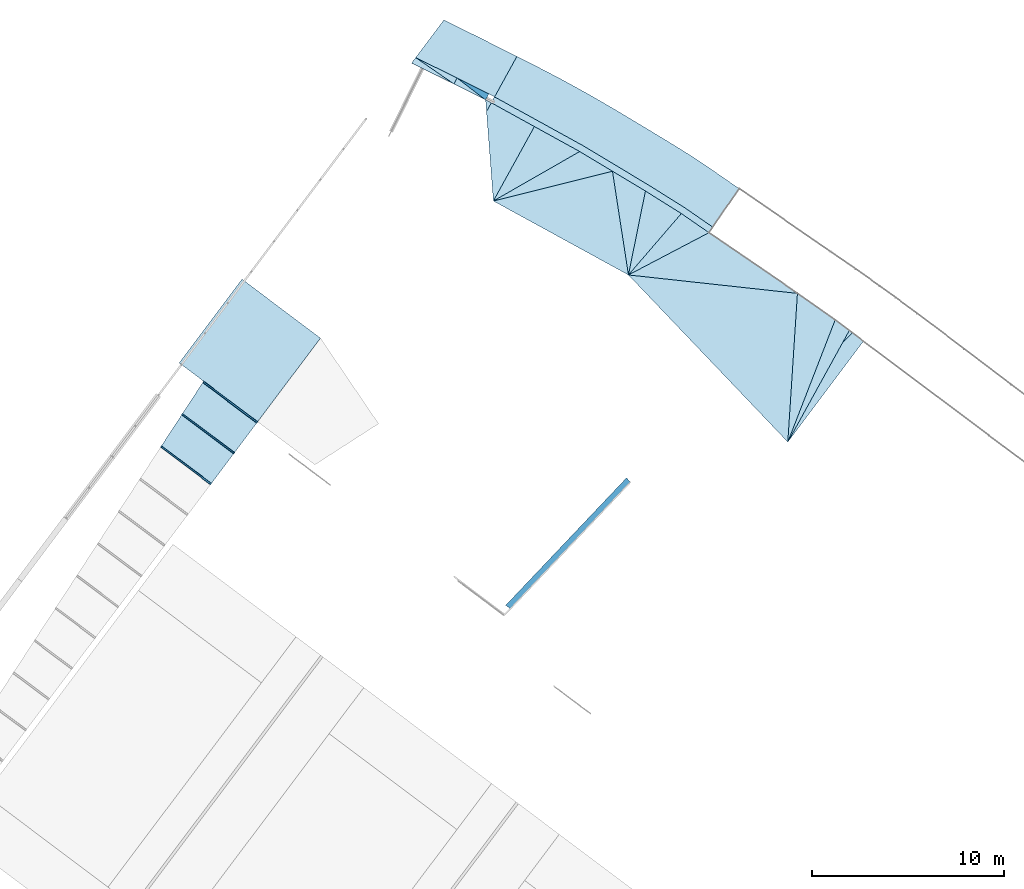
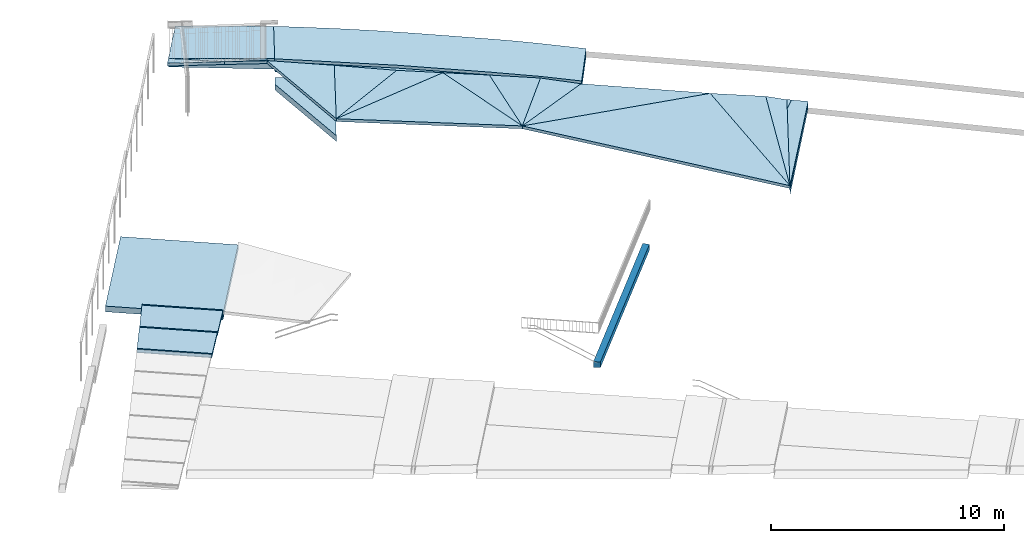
# One storey, part 23 of 33: 29 slabs, 2 elements without a shape of their own.
"""IFC2X3 building model written with IfcOpenShell, lengths in metres."""

from ifc_helpers import new_model, entity, si_unit, converted_unit, derived_unit, direction, frame, frame_2d, origin, place, context, subcontext, project, spatial, polyline, rectangle, outline, extrude, clip, halfspace, material, layer, layer_set, layer_usage, type_object, element, aggregate, save


model = new_model("IFC2X3")

# Units and contexts
model_context = context("Model", 3, precision=1e-05, world=origin(), true_north=direction((6.123031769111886e-17, 1.0)))
body_context = subcontext(model_context, "Body", "Model", "MODEL_VIEW")
ifc_project = project(units=[si_unit("LENGTHUNIT", "METRE"), si_unit("AREAUNIT", "SQUARE_METRE"), si_unit("VOLUMEUNIT", "CUBIC_METRE"), converted_unit("PLANEANGLEUNIT", "DEGREE", entity("IfcRatioMeasure", 0.017453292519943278), si_unit("PLANEANGLEUNIT", "RADIAN"), dimensions=[0, 0, 0, 0, 0, 0, 0]), si_unit("MASSUNIT", "GRAM", prefix="KILO"), derived_unit("MASSDENSITYUNIT", [(si_unit("MASSUNIT", "GRAM", prefix="KILO"), 1), (si_unit("LENGTHUNIT", "METRE"), -3)]), derived_unit("IONCONCENTRATIONUNIT", [(si_unit("MASSUNIT", "GRAM", prefix="KILO"), 1), (si_unit("LENGTHUNIT", "METRE"), -3)]), derived_unit("MOMENTOFINERTIAUNIT", [(si_unit("LENGTHUNIT", "METRE"), 4)]), si_unit("TIMEUNIT", "SECOND"), si_unit("FREQUENCYUNIT", "HERTZ"), si_unit("THERMODYNAMICTEMPERATUREUNIT", "DEGREE_CELSIUS"), derived_unit("THERMALTRANSMITTANCEUNIT", [(si_unit("MASSUNIT", "GRAM", prefix="KILO"), 1), (si_unit("THERMODYNAMICTEMPERATUREUNIT", "KELVIN"), -1), (si_unit("TIMEUNIT", "SECOND"), -3)]), derived_unit("THERMALCONDUCTANCEUNIT", [(si_unit("MASSUNIT", "GRAM", prefix="KILO"), 1), (si_unit("THERMODYNAMICTEMPERATUREUNIT", "KELVIN"), -1), (si_unit("TIMEUNIT", "SECOND"), -3), (si_unit("LENGTHUNIT", "METRE"), 1)]), derived_unit("VOLUMETRICFLOWRATEUNIT", [(si_unit("LENGTHUNIT", "METRE"), 3), (si_unit("TIMEUNIT", "SECOND"), -1)]), derived_unit("MASSFLOWRATEUNIT", [(si_unit("MASSUNIT", "GRAM", prefix="KILO"), 1), (si_unit("TIMEUNIT", "SECOND"), -1)]), derived_unit("ROTATIONALFREQUENCYUNIT", [(si_unit("TIMEUNIT", "SECOND"), -1)]), si_unit("ELECTRICCURRENTUNIT", "AMPERE"), si_unit("ELECTRICVOLTAGEUNIT", "VOLT"), si_unit("POWERUNIT", "WATT"), si_unit("FORCEUNIT", "NEWTON", prefix="KILO"), si_unit("ILLUMINANCEUNIT", "LUX"), si_unit("LUMINOUSFLUXUNIT", "LUMEN"), si_unit("LUMINOUSINTENSITYUNIT", "CANDELA"), derived_unit("USERDEFINED", [(si_unit("MASSUNIT", "GRAM", prefix="KILO"), -1), (si_unit("LENGTHUNIT", "METRE"), -2), (si_unit("TIMEUNIT", "SECOND"), 3), (si_unit("LUMINOUSFLUXUNIT", "LUMEN"), 1)]), derived_unit("USERDEFINED", [(si_unit("MASSUNIT", "GRAM", prefix="KILO"), 1), (si_unit("TIMEUNIT", "SECOND"), -3), (si_unit("LENGTHUNIT", "METRE"), 3), (si_unit("ELECTRICCURRENTUNIT", "AMPERE"), -2)]), derived_unit("SOUNDPOWERUNIT", [(si_unit("MASSUNIT", "GRAM", prefix="KILO"), 1), (si_unit("TIMEUNIT", "SECOND"), -3), (si_unit("LENGTHUNIT", "METRE"), 2)]), derived_unit("SOUNDPRESSUREUNIT", [(si_unit("MASSUNIT", "GRAM", prefix="KILO"), 1), (si_unit("LENGTHUNIT", "METRE"), -1), (si_unit("TIMEUNIT", "SECOND"), -2)]), derived_unit("LINEARVELOCITYUNIT", [(si_unit("LENGTHUNIT", "METRE"), 1), (si_unit("TIMEUNIT", "SECOND"), -1)]), si_unit("PRESSUREUNIT", "PASCAL"), derived_unit("USERDEFINED", [(si_unit("MASSUNIT", "GRAM", prefix="KILO"), 1), (si_unit("LENGTHUNIT", "METRE"), -2), (si_unit("TIMEUNIT", "SECOND"), -2)]), derived_unit("LINEARFORCEUNIT", [(si_unit("MASSUNIT", "GRAM", prefix="KILO"), 1), (si_unit("TIMEUNIT", "SECOND"), -2)]), derived_unit("PLANARFORCEUNIT", [(si_unit("MASSUNIT", "GRAM", prefix="KILO"), 1), (si_unit("LENGTHUNIT", "METRE"), -1), (si_unit("TIMEUNIT", "SECOND"), -2)]), derived_unit("SPECIFICHEATCAPACITYUNIT", [(si_unit("THERMODYNAMICTEMPERATUREUNIT", "KELVIN"), -1), (si_unit("LENGTHUNIT", "METRE"), 2), (si_unit("TIMEUNIT", "SECOND"), -2)]), derived_unit("HEATINGVALUEUNIT", [(si_unit("LENGTHUNIT", "METRE"), 2), (si_unit("TIMEUNIT", "SECOND"), -2)]), derived_unit("VAPORPERMEABILITYUNIT", [(si_unit("LENGTHUNIT", "METRE"), -1), (si_unit("TIMEUNIT", "SECOND"), 1)]), derived_unit("DYNAMICVISCOSITYUNIT", [(si_unit("MASSUNIT", "GRAM", prefix="KILO"), 1), (si_unit("TIMEUNIT", "SECOND"), -1), (si_unit("LENGTHUNIT", "METRE"), -1)]), derived_unit("THERMALEXPANSIONCOEFFICIENTUNIT", [(si_unit("THERMODYNAMICTEMPERATUREUNIT", "KELVIN"), -1)]), derived_unit("MODULUSOFELASTICITYUNIT", [(si_unit("MASSUNIT", "GRAM", prefix="KILO"), 1), (si_unit("LENGTHUNIT", "METRE"), -1), (si_unit("TIMEUNIT", "SECOND"), -2)]), derived_unit("ISOTHERMALMOISTURECAPACITYUNIT", [(si_unit("LENGTHUNIT", "METRE"), 3), (si_unit("MASSUNIT", "GRAM", prefix="KILO"), -1)]), derived_unit("MOISTUREDIFFUSIVITYUNIT", [(si_unit("TIMEUNIT", "SECOND"), -1), (si_unit("LENGTHUNIT", "METRE"), 2)])], contexts=[model_context])

# Site, building, storey
site_placement = place(None, origin())
site = spatial("IfcSite", under=ifc_project, at=site_placement, Name="Superficie", CompositionType="ELEMENT")
building_placement = place(site_placement, frame((0.0, 0.0, 235.0), z_axis=(0.0, 0.0, 1.0), x_axis=(-0.7996477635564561, 0.6004693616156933, 0.0)))
building = spatial("IfcBuilding", under=site, at=building_placement, CompositionType="ELEMENT")
storey_placement = place(building_placement, origin())
storey = spatial("IfcBuildingStorey", under=building, at=storey_placement, Name="P0- Escola", CompositionType="ELEMENT", Elevation=0.0)

# Slabs
ifc_material_1 = material(Name="_Topografia- Plataformes")
ifc_layer_1 = layer(ifc_material_1, 0.29999999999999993)
ifc_layer_set_1 = layer_set([ifc_layer_1], Name="Plataforma:300 mm")
ifc_layer_usage_1 = layer_usage(ifc_layer_set_1, "AXIS3", "POSITIVE", 0.0)
slab_type_1 = type_object("IfcSlabType", Name="Plataforma:300 mm", PredefinedType="FLOOR", material=ifc_layer_set_1)
slab_1_placement = place(storey_placement, frame((52.08748387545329, -66.38449841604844, -5.957070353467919)))
element("IfcSlab", 1, at=slab_1_placement, inside=storey, type_object=slab_type_1, material=ifc_layer_usage_1, Name="Plataforma:300 mm", ObjectType="Plataforma:300 mm", PredefinedType="FLOOR", context=body_context, shape_type="SweptSolid", body=[
    extrude(outline(polyline([(0.0, 3.2718510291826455), (0.0, -3.2718510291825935), (0.9313138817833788, -3.2718510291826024), (0.0, 3.2718510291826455)])), frame((0.0, 3.2718510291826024, 0.36127035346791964), z_axis=(-0.12878853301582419, 0.0, 0.9916720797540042), x_axis=(0.9916720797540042, 0.0, 0.12878853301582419)), (-0.12878853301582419, 0.0, -0.9916720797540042), 0.3025193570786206),
])
slab_2_placement = place(storey_placement, frame((74.74514768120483, -49.58034399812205, -3.56914060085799)))
element("IfcSlab", 2, at=slab_2_placement, inside=storey, type_object=slab_type_1, material=ifc_layer_usage_1, Name="Plataforma:300 mm", ObjectType="Plataforma:300 mm", PredefinedType="FLOOR", context=body_context, shape_type="SweptSolid", body=[
    extrude(rectangle(XDim=5.44185192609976, YDim=5.099774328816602, at=frame_2d((0.6999920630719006, -2.72092596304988), x_axis=(0.0, 1.0))), frame((1.8498951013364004, 5.440152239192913, 0.4360937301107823), z_axis=(0.0, -0.02499149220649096, 0.9996876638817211), x_axis=(1.0, 0.0, 0.0)), (0.0, -0.02499149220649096, -0.9996876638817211), 0.30009373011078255),
])
slab_3_placement = place(storey_placement, origin())
element("IfcSlab", 3, at=slab_3_placement, inside=storey, type_object=slab_type_1, material=ifc_layer_usage_1, Name="Plataforma:300 mm", ObjectType="Plataforma:300 mm", PredefinedType="FLOOR", context=body_context, shape_type="SweptSolid", body=[
    extrude(outline(polyline([(-0.6703038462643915, -4.516815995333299), (-0.36832750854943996, -4.516815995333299), (0.6671392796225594, 4.489291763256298), (0.37149207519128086, 4.5443402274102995), (-0.6703038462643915, -4.516815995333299)])), frame((58.044950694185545, -48.777078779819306, -4.6499999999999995), z_axis=(0.0, 0.0, 1.0), x_axis=(-1.0, 0.0, 0.0)), (0.0, 0.0, 1.0), 0.2999999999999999),
])
slab_4_placement = place(storey_placement, frame((75.03822631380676, -67.41095313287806, -4.816696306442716)))
element("IfcSlab", 4, at=slab_4_placement, inside=storey, type_object=slab_type_1, material=ifc_layer_usage_1, Name="Plataforma:300 mm", ObjectType="Plataforma:300 mm", PredefinedType="FLOOR", context=body_context, shape_type="SweptSolid", body=[
    extrude(outline(polyline([(4.975213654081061e-08, -2.4421005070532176), (0.0, 0.0), (-1.9283567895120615, 0.3618861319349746), (-4.181294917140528, 0.7651706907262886), (-4.517756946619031, -1.6129324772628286), (-4.504864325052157, -1.6152428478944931), (-2.3632354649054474, -1.998602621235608), (4.975213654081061e-08, -2.4421005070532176)])), frame((4.506694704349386, 0.7651706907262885, 0.6166963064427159), z_axis=(0.06993734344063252, 0.0, -0.9975513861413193), x_axis=(0.9975513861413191, 0.0, 0.0699373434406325)), (-0.0699373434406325, 0.0, 0.9975513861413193), 0.3007363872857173),
])
slab_5_placement = place(storey_placement, frame((61.89528590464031, -68.85457826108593, -5.752737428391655)))
element("IfcSlab", 5, at=slab_5_placement, inside=storey, type_object=slab_type_1, material=ifc_layer_usage_1, Name="Plataforma:300 mm", ObjectType="Plataforma:300 mm", PredefinedType="FLOOR", context=body_context, shape_type="SweptSolid", body=[
    extrude(outline(polyline([(-11.221986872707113, 2.1279757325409), (-13.298519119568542, 2.208795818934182), (-13.411891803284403, -0.564828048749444), (-11.660772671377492, -0.6330930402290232), (-9.46047272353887, -0.8173010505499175), (-7.466589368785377, -1.0226639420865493), (-5.485474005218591, -1.2267117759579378), (-0.27741188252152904, -1.9594977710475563), (-0.2154468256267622, -1.615242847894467), (-0.22834761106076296, -1.6129324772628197), (0.10832747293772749, 0.7651706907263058), (-1.0072501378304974, 0.9647369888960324), (-2.5682796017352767, 1.2198542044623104), (-4.134480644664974, 1.440222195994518), (-5.8069179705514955, 1.6370701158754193), (-7.476485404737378, 1.8090296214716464), (-9.34133626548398, 1.9932965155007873), (-10.28018211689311, 2.071896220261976), (-11.221986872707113, 2.1279757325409)])), frame((13.370584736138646, 2.208795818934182, 1.3527374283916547), z_axis=(0.07842373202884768, 0.0, -0.9969201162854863), x_axis=(0.9969201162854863, 0.0, 0.07842373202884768)), (-0.07842373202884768, 0.0, 0.9969201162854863), 0.3009268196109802),
])
slab_6_placement = place(storey_placement, origin())
element("IfcSlab", 6, at=slab_6_placement, inside=storey, type_object=slab_type_1, material=ifc_layer_usage_1, Name="Plataforma:300 mm", ObjectType="Plataforma:300 mm", PredefinedType="FLOOR", context=body_context, shape_type="SweptSolid", body=[
    extrude(outline(polyline([(-1.2777070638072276, -1.2347921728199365), (1.2777070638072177, -1.2347921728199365), (1.2777070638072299, -0.7130086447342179), (-1.2777070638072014, 3.182592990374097), (-1.2777070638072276, -1.2347921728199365)])), frame((73.55158026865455, -63.64217203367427, -5.299999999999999), z_axis=(0.0, 0.0, 1.0), x_axis=(0.9901865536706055, 0.1397518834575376, 0.0)), (0.0, 0.0, 1.0), 0.30000000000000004),
])
ifc_material_2 = material(Name="_Formigó- Solera- T1- STR")
ifc_layer_2 = layer(ifc_material_2, 0.14999999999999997)
ifc_layer_set_2 = layer_set([ifc_layer_2], Name="Suelo:STR- L- Formigó- Solera- T1- 15 cm")
ifc_layer_usage_2 = layer_usage(ifc_layer_set_2, "AXIS3", "POSITIVE", 0.0)
slab_type_2 = type_object("IfcSlabType", Name="Suelo:STR- L- Formigó- Solera- T1- 15 cm", PredefinedType="FLOOR", material=ifc_layer_set_2)
slab_7_placement = place(storey_placement, origin())
element("IfcSlab", 7, at=slab_7_placement, inside=storey, type_object=slab_type_2, material=ifc_layer_usage_2, Name="Suelo:STR- L- Formigó- Solera- T1- 15 cm", ObjectType="Suelo:STR- L- Formigó- Solera- T1- 15 cm", PredefinedType="FLOOR", context=body_context, shape_type="SweptSolid", body=[
    clip(clip(extrude(outline(polyline([(-0.04012779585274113, -1.7545660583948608), (0.0401277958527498, -1.7545660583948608), (0.0401277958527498, 1.7519318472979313), (-0.04012779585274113, 1.7572002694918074), (-0.04012779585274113, -1.7545660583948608)])), frame((76.4997137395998, -44.100191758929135, -2.8968), z_axis=(0.0, 0.07974522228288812, -0.9968152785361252), x_axis=(0.0, 0.9968152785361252, 0.07974522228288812)), (-0.07974522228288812, 0.0, 0.9968152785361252), 0.15096000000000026), halfspace(frame((74.74514768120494, -44.14019175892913, -3.0504792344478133), z_axis=(0.0, 0.07974522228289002, -0.9968152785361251), x_axis=(0.0, -0.9968152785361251, -0.07974522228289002)), False)), halfspace(frame((74.74514768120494, -44.14019175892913, -2.8999999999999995), z_axis=(0.0, -0.07974522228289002, 0.9968152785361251), x_axis=(0.0, 0.9968152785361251, 0.07974522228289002)), False)),
])
slab_8_placement = place(storey_placement, origin())
element("IfcSlab", 8, at=slab_8_placement, inside=storey, type_object=slab_type_2, material=ifc_layer_usage_2, Name="Suelo:STR- L- Formigó- Solera- T1- 15 cm", ObjectType="Suelo:STR- L- Formigó- Solera- T1- 15 cm", PredefinedType="FLOOR", context=body_context, shape_type="SweptSolid", body=[
    clip(clip(extrude(outline(polyline([(-0.04012779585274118, -1.688710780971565), (0.04012779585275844, -1.688710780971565), (0.04012779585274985, 1.686076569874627), (-0.04012779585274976, 1.691344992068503), (-0.04012779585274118, -1.688710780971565)])), frame((76.4338584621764, -42.10019175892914, -2.653799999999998), z_axis=(0.0, 0.07974522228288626, -0.9968152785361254), x_axis=(0.0, 0.9968152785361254, 0.07974522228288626)), (-0.07974522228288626, 0.0, 0.9968152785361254), 0.1509600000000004), halfspace(frame((74.74514768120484, -42.060191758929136, -2.8010792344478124), z_axis=(0.0, 0.07974522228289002, -0.9968152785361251), x_axis=(0.0, 0.9968152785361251, 0.07974522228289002)), False)), halfspace(frame((74.74514768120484, -42.060191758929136, -2.650599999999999), z_axis=(0.0, -0.07974522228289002, 0.9968152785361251), x_axis=(0.0, -0.9968152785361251, -0.07974522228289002)), False)),
])
slab_9_placement = place(storey_placement, origin())
element("IfcSlab", 9, at=slab_9_placement, inside=storey, type_object=slab_type_2, material=ifc_layer_usage_2, Name="Suelo:STR- L- Formigó- Solera- T1- 15 cm", ObjectType="Suelo:STR- L- Formigó- Solera- T1- 15 cm", PredefinedType="FLOOR", context=body_context, shape_type="SweptSolid", body=[
    clip(clip(extrude(outline(polyline([(-0.04012779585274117, -1.6228555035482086), (0.04012779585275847, -1.6228555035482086), (0.04012779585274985, 1.6202212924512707), (-0.04012779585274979, 1.6254897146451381), (-0.04012779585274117, -1.6228555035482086)])), frame((76.36800318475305, -40.10019175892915, -2.4108), z_axis=(0.0, 0.0797452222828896, -0.9968152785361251), x_axis=(0.0, 0.9968152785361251, 0.0797452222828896)), (-0.0797452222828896, 0.0, 0.9968152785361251), 0.15096000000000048), halfspace(frame((74.74514768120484, -40.060191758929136, -2.558079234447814), z_axis=(0.0, 0.07974522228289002, -0.9968152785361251), x_axis=(0.0, 0.9968152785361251, 0.07974522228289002)), False)), halfspace(frame((74.74514768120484, -40.060191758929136, -2.4076), z_axis=(0.0, -0.07974522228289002, 0.9968152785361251), x_axis=(0.0, -0.9968152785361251, -0.07974522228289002)), False)),
])
slab_10_placement = place(storey_placement, origin())
element("IfcSlab", 10, at=slab_10_placement, inside=storey, type_object=slab_type_2, material=ifc_layer_usage_2, Name="Suelo:STR- L- Formigó- Solera- T1- 15 cm", ObjectType="Suelo:STR- L- Formigó- Solera- T1- 15 cm", PredefinedType="FLOOR", context=body_context, shape_type="SweptSolid", body=[
    clip(clip(extrude(outline(polyline([(-1.489742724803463, -7.061052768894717), (0.9120742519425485, -7.061052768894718), (0.9532939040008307, -5.928515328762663), (0.9870747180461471, -4.347137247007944), (0.9857244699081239, -2.7655096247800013), (0.9461946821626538, -1.0819915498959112), (0.8824244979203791, 0.5951962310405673), (0.8034663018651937, 2.4674645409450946), (0.7496871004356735, 3.4080586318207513), (0.6731952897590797, 4.348425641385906), (0.4621391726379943, 6.415784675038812), (-1.9517307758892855, 6.174112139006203), (-1.7731203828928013, 4.42348002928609), (-1.6464422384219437, 2.207889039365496), (-1.494238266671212, -1.795151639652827), (-1.489742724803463, -7.061052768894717)])), frame((68.27660356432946, -67.49766826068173, -4.799817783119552), z_axis=(0.07842373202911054, 0.0, -0.9969201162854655), x_axis=(0.13974343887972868, -0.9901267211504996, 0.010993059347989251)), (-0.010993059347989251, 0.0776494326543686, 0.9969201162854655), 0.15092825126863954), halfspace(frame((75.26587064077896, -66.64578244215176, -4.400463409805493), z_axis=(0.07842373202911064, 0.0, -0.9969201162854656), x_axis=(-0.9969201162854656, 0.0, -0.07842373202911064)), False)), halfspace(frame((75.26587064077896, -66.64578244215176, -4.25), z_axis=(-0.07842373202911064, 0.0, 0.9969201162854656), x_axis=(0.9969201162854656, 0.0, 0.07842373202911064)), False)),
])
slab_11_placement = place(storey_placement, origin())
element("IfcSlab", 11, at=slab_11_placement, inside=storey, type_object=slab_type_2, material=ifc_layer_usage_2, Name="Suelo:STR- L- Formigó- Solera- T1- 15 cm", ObjectType="Suelo:STR- L- Formigó- Solera- T1- 15 cm", PredefinedType="FLOOR", context=body_context, shape_type="SweptSolid", body=[
    clip(clip(extrude(outline(polyline([(-1.6210036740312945, -2.162163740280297), (0.8210968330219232, -2.162163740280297), (1.182983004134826, -0.2364287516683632), (1.5862676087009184, 2.0134462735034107), (-0.7918380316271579, 2.3494512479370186), (-1.177505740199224, 0.19785871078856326), (-1.6210036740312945, -2.162163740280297)])), frame((77.38511512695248, -65.82468556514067, -4.150947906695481), z_axis=(0.0466883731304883, 0.0, -0.9989095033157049), x_axis=(-2.032279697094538e-08, -1.0, 0.0)), (0.0, 0.046688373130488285, 0.9989095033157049), 0.15032768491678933), halfspace(frame((79.54492101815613, -66.64578244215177, -4.200163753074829), z_axis=(0.04668837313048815, 0.0, -0.9989095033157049), x_axis=(-0.9989095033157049, 0.0, -0.04668837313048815)), False)), halfspace(frame((79.54492101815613, -66.64578244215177, -4.05), z_axis=(-0.04668837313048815, 0.0, 0.9989095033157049), x_axis=(0.9989095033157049, 0.0, 0.04668837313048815)), False)),
])
ifc_material_3 = material(Name="_Saulo T1- PAV")
ifc_layer_3 = layer(ifc_material_3, 0.14999999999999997)
ifc_layer_set_3 = layer_set([ifc_layer_3], Name="Suelo:PAV- Saulo- 15 cm- T1")
ifc_layer_usage_3 = layer_usage(ifc_layer_set_3, "AXIS3", "POSITIVE", 0.0)
slab_type_3 = type_object("IfcSlabType", Name="Suelo:PAV- Saulo- 15 cm- T1", PredefinedType="FLOOR", material=ifc_layer_set_3)
slab_12_placement = place(storey_placement, origin())
element("IfcSlab", 12, at=slab_12_placement, inside=storey, type_object=slab_type_3, material=ifc_layer_usage_3, Name="Suelo:PAV- Saulo- 15 cm- T1", ObjectType="Suelo:PAV- Saulo- 15 cm- T1", PredefinedType="FLOOR", context=body_context, shape_type="SweptSolid", body=[
    clip(clip(extrude(outline(polyline([(-0.9630671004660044, -1.721638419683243), (0.963067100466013, -1.721638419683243), (0.9630671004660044, 1.658417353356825), (-0.9630671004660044, 1.784859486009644), (-0.9630671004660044, -1.721638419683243)])), frame((76.46678610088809, -43.10019175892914, -2.8167999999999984), z_axis=(0.0, 0.0797452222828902, -0.9968152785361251), x_axis=(0.0, 0.9968152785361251, 0.0797452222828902)), (-0.0797452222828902, 0.0, 0.9968152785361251), 0.15096000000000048), halfspace(frame((78.12520345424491, -42.14019175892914, -2.8904792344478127), z_axis=(0.0, 0.07974522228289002, -0.9968152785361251), x_axis=(0.0, 0.9968152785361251, 0.07974522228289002)), False)), halfspace(frame((78.12520345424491, -42.14019175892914, -2.7399999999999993), z_axis=(0.0, -0.07974522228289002, 0.9968152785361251), x_axis=(0.0, -0.9968152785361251, -0.07974522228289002)), False)),
])
slab_13_placement = place(storey_placement, origin())
element("IfcSlab", 13, at=slab_13_placement, inside=storey, type_object=slab_type_3, material=ifc_layer_usage_3, Name="Suelo:PAV- Saulo- 15 cm- T1", ObjectType="Suelo:PAV- Saulo- 15 cm- T1", PredefinedType="FLOOR", context=body_context, shape_type="SweptSolid", body=[
    clip(clip(extrude(outline(polyline([(-0.9630671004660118, -1.6557831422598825), (0.963067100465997, -1.6557831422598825), (0.9630671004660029, 1.5925620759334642), (-0.9630671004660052, 1.7190042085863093), (-0.9630671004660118, -1.6557831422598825)])), frame((76.40093082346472, -41.100191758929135, -2.573799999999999), z_axis=(0.0, 0.07974522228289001, -0.9968152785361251), x_axis=(0.0, 0.9968152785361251, 0.07974522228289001)), (-0.07974522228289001, 0.0, 0.9968152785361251), 0.15096000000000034), halfspace(frame((74.74514768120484, -40.140191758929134, -2.6474792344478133), z_axis=(0.0, 0.07974522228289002, -0.9968152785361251), x_axis=(0.0, 0.9968152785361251, 0.07974522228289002)), False)), halfspace(frame((74.74514768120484, -40.140191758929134, -2.497), z_axis=(0.0, -0.07974522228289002, 0.9968152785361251), x_axis=(0.0, -0.9968152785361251, -0.07974522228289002)), False)),
])

slab_14_placement = place(storey_placement, frame((75.31819106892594, -64.97382645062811, -4.386012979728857)))
slab_14 = element("IfcSlab", 14, at=slab_14_placement, inside=storey, Name="Suelo:PAV- Saulo- 15 cm- T1", ObjectType="Suelo:PAV- Saulo- 15 cm- T1", PredefinedType="NOTDEFINED")
slab_15_placement = place(slab_14_placement, origin())
slab_15 = element("IfcSlab", 15, at=slab_15_placement, type_object=slab_type_3, material=ifc_layer_set_3, Name="Suelo:PAV- Saulo- 15 cm- T1", ObjectType="Suelo:PAV- Saulo- 15 cm- T1", PredefinedType="FLOOR", context=body_context, shape_type="SweptSolid", body=[
    extrude(outline(polyline([(1.178322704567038, 0.3995288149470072), (-1.2429745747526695, -0.05551465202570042), (1.1783226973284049, 0.043364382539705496), (1.178322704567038, 0.3995288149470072)])), frame((3.048548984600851, 0.7265676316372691, 0.3184714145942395), z_axis=(-0.015507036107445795, 0.011793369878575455, 0.9998102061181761), x_axis=(0.9998797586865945, 0.00018290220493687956, 0.015505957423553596)), (-0.015505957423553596, 0.011794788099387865, -0.9998102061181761), 0.15000000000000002),
])
slab_16_placement = place(slab_14_placement, origin())
slab_16 = element("IfcSlab", 16, at=slab_16_placement, type_object=slab_type_3, material=ifc_layer_set_3, Name="Suelo:PAV- Saulo- 15 cm- T1", ObjectType="Suelo:PAV- Saulo- 15 cm- T1", PredefinedType="FLOOR", context=body_context, shape_type="SweptSolid", body=[
    extrude(outline(polyline([(-1.2132433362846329, -0.03732141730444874), (-1.1496849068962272, -0.3893287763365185), (1.2078070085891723, 0.06742957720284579), (-1.2132433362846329, -0.03732141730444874)])), frame((3.01894504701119, 0.7057675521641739, 0.3148853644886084), z_axis=(-0.006043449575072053, -0.21073759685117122, 0.9775239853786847), x_axis=(0.99998173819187, -0.0012736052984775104, 0.0059077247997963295)), (-0.0059077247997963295, -0.21074144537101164, -0.9775239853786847), 0.15000000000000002),
])
slab_17_placement = place(slab_14_placement, origin())
slab_17 = element("IfcSlab", 17, at=slab_17_placement, type_object=slab_type_3, material=ifc_layer_set_3, Name="Suelo:PAV- Saulo- 15 cm- T1", ObjectType="Suelo:PAV- Saulo- 15 cm- T1", PredefinedType="FLOOR", context=body_context, shape_type="SweptSolid", body=[
    extrude(outline(polyline([(0.8713329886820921, 0.33700751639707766), (-0.9349084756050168, 0.01499676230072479), (0.9349084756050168, -0.014996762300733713), (0.8713329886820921, 0.33700751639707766)])), frame((0.9346405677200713, 0.33672561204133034, 0.25102930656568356), z_axis=(0.02393823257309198, -0.2053864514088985, 0.9783881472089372), x_axis=(0.9997134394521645, 0.004917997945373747, -0.023427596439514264)), (0.023427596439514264, -0.20544532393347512, -0.9783881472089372), 0.15000000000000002),
])
slab_18_placement = place(slab_14_placement, origin())
slab_18 = element("IfcSlab", 18, at=slab_18_placement, type_object=slab_type_3, material=ifc_layer_set_3, Name="Suelo:PAV- Saulo- 15 cm- T1", ObjectType="Suelo:PAV- Saulo- 15 cm- T1", PredefinedType="FLOOR", context=body_context, shape_type="SweptSolid", body=[
    extrude(outline(polyline([(0.9383881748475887, 0.16600790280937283), (-0.9313247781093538, 0.2019038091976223), (-0.8823665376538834, -0.16708344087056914), (0.9383881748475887, 0.16600790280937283)])), frame((0.9311096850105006, 0.16362530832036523, 0.18877139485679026), z_axis=(0.02149079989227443, -0.33874934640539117, 0.9406311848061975), x_axis=(0.999769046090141, 0.00728167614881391, -0.020219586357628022)), (0.020219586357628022, -0.3388275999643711, -0.9406311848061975), 0.15000000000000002),
])
aggregate(slab_14, [slab_15, slab_16, slab_17, slab_18])

slab_19_placement = place(storey_placement, frame((52.087483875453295, -66.38449841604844, -5.6599999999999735)))
slab_19 = element("IfcSlab", 19, at=slab_19_placement, inside=storey, Name="Suelo:PAV- Saulo- 15 cm- T1", ObjectType="Suelo:PAV- Saulo- 15 cm- T1", PredefinedType="NOTDEFINED")
slab_20_placement = place(slab_19_placement, origin())
slab_20 = element("IfcSlab", 20, at=slab_20_placement, type_object=slab_type_3, material=ifc_layer_set_3, Name="Suelo:PAV- Saulo- 15 cm- T1", ObjectType="Suelo:PAV- Saulo- 15 cm- T1", PredefinedType="FLOOR", context=body_context, shape_type="SweptSolid", body=[
    extrude(outline(polyline([(3.643170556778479, 2.7428742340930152), (-4.286510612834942, 1.5562382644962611), (-0.38112433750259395, -2.2547258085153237), (3.643170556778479, 2.7428742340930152)])), frame((16.11545069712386, 3.003307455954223, 1.1006352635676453), z_axis=(-0.049502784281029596, -0.09827718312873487, 0.9939270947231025), x_axis=(0.9987739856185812, -0.00487096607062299, 0.04926255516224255)), (-0.04926255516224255, -0.09839782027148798, -0.9939270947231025), 0.15000000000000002),
])
slab_21_placement = place(slab_19_placement, origin())
slab_21 = element("IfcSlab", 21, at=slab_21_placement, type_object=slab_type_3, material=ifc_layer_set_3, Name="Suelo:PAV- Saulo- 15 cm- T1", ObjectType="Suelo:PAV- Saulo- 15 cm- T1", PredefinedType="FLOOR", context=body_context, shape_type="SweptSolid", body=[
    extrude(outline(polyline([(1.4635052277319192, 2.9402616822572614), (-2.558963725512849, -2.058808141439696), (-0.582422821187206, -1.8452644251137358), (1.4635052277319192, 2.9402616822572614)])), frame((18.29178020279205, 2.797741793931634, 1.1794311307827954), z_axis=(-0.03930234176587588, -0.1064990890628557, 0.9935357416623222), x_axis=(0.9992273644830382, -0.0041889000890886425, 0.039078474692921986)), (-0.039078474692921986, -0.10658143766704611, -0.9935357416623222), 0.15000000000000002),
])
slab_22_placement = place(slab_19_placement, origin())
slab_22 = element("IfcSlab", 22, at=slab_22_placement, type_object=slab_type_3, material=ifc_layer_set_3, Name="Suelo:PAV- Saulo- 15 cm- T1", ObjectType="Suelo:PAV- Saulo- 15 cm- T1", PredefinedType="FLOOR", context=body_context, shape_type="SweptSolid", body=[
    extrude(outline(polyline([(-0.02946596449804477, 2.845004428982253), (-2.0842154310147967, -1.936740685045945), (0.5910131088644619, -1.538190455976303), (-0.02946596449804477, 2.845004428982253)])), frame((19.783471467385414, 2.879079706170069, 1.3243787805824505), z_axis=(-0.10049565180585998, -0.07993509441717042, 0.9917212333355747), x_axis=(0.9949374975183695, -0.008074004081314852, 0.10017078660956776)), (-0.10017078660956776, -0.08034182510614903, -0.9917212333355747), 0.15000000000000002),
])
slab_23_placement = place(slab_19_placement, origin())
slab_23 = element("IfcSlab", 23, at=slab_23_placement, type_object=slab_type_3, material=ifc_layer_set_3, Name="Suelo:PAV- Saulo- 15 cm- T1", ObjectType="Suelo:PAV- Saulo- 15 cm- T1", PredefinedType="FLOOR", context=body_context, shape_type="SweptSolid", body=[
    extrude(outline(polyline([(-1.751616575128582, 1.9877813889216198), (-1.131803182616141, -2.395507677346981), (1.7489567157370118, -1.968970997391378), (-1.751616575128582, 1.9877813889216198)])), frame((21.49877540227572, 3.7212010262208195, 1.5493777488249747), z_axis=(-0.08928562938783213, -0.0784319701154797, 0.9929131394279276), x_axis=(0.9960060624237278, -0.007030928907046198, 0.08900836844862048)), (-0.08900836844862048, -0.07874647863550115, -0.9929131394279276), 0.15000000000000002),
])
slab_24_placement = place(slab_19_placement, origin())
slab_24 = element("IfcSlab", 24, at=slab_24_placement, type_object=slab_type_3, material=ifc_layer_set_3, Name="Suelo:PAV- Saulo- 15 cm- T1", ObjectType="Suelo:PAV- Saulo- 15 cm- T1", PredefinedType="FLOOR", context=body_context, shape_type="SweptSolid", body=[
    extrude(outline(polyline([(6.390707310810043, 1.849446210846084), (-5.475211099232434, 3.7793722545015), (-1.225849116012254, -2.6894818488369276), (6.390707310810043, 1.849446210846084)])), frame((5.460573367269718, 2.749062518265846, 0.48380910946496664), z_axis=(-0.0730736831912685, -0.04981794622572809, 0.9960815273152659), x_axis=(0.9973265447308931, -0.003650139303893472, 0.07298246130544)), (-0.07298246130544, -0.04995148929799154, -0.9960815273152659), 0.15000000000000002),
])
slab_25_placement = place(slab_19_placement, origin())
slab_25 = element("IfcSlab", 25, at=slab_25_placement, type_object=slab_type_3, material=ifc_layer_set_3, Name="Suelo:PAV- Saulo- 15 cm- T1", ObjectType="Suelo:PAV- Saulo- 15 cm- T1", PredefinedType="FLOOR", context=body_context, shape_type="SweptSolid", body=[
    extrude(outline(polyline([(3.1177127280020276, 3.418648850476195), (-4.482017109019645, -1.1483968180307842), (1.0903760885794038, -0.8898045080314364), (3.1177127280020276, 3.418648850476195)])), frame((8.717933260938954, 1.1908367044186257, 0.5346313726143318), z_axis=(-0.03050123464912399, -0.12091964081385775, 0.9921935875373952), x_axis=(0.9995347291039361, -0.0036899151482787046, 0.03027721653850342)), (-0.03027721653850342, -0.12097592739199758, -0.9921935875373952), 0.15000000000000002),
])
slab_26_placement = place(slab_19_placement, origin())
slab_26 = element("IfcSlab", 26, at=slab_26_placement, type_object=slab_type_3, material=ifc_layer_set_3, Name="Suelo:PAV- Saulo- 15 cm- T1", ObjectType="Suelo:PAV- Saulo- 15 cm- T1", PredefinedType="FLOOR", context=body_context, shape_type="SweptSolid", body=[
    extrude(outline(polyline([(0.318590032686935, 2.4835708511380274), (-1.720228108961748, -1.8194611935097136), (0.0362016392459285, -1.7347645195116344), (0.318590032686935, 2.4835708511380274)])), frame((11.517546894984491, 2.1008703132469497, 0.8006089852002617), z_axis=(-0.11023186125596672, -0.0828380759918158, 0.9904477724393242), x_axis=(0.9939058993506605, -0.009187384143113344, 0.10984832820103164)), (-0.10984832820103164, -0.08334599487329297, -0.9904477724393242), 0.15000000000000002),
])
slab_27_placement = place(slab_19_placement, origin())
slab_27 = element("IfcSlab", 27, at=slab_27_placement, type_object=slab_type_3, material=ifc_layer_set_3, Name="Suelo:PAV- Saulo- 15 cm- T1", ObjectType="Suelo:PAV- Saulo- 15 cm- T1", PredefinedType="FLOOR", context=body_context, shape_type="SweptSolid", body=[
    extrude(outline(polyline([(-0.9459004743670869, 2.1815482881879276), (-1.2267705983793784, -2.0368884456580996), (0.9683363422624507, -1.8445801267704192), (-0.9459004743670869, 2.1815482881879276)])), frame((12.779413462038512, 2.3966547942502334, 0.8860195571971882), z_axis=(-0.0379786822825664, -0.08811495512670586, 0.995386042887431), x_axis=(0.9992785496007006, -0.0033489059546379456, 0.037830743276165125)), (-0.037830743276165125, -0.08817857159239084, -0.995386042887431), 0.15000000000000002),
])
slab_28_placement = place(slab_19_placement, origin())
slab_28 = element("IfcSlab", 28, at=slab_28_placement, type_object=slab_type_3, material=ifc_layer_set_3, Name="Suelo:PAV- Saulo- 15 cm- T1", ObjectType="Suelo:PAV- Saulo- 15 cm- T1", PredefinedType="FLOOR", context=body_context, shape_type="SweptSolid", body=[
    extrude(outline(polyline([(-1.9519262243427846, 1.9062676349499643), (-0.03747455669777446, -2.119758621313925), (1.9519262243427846, -1.906267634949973), (-1.9519262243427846, 1.9062676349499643)])), frame((13.784494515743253, 2.6671264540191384, 0.951300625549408), z_axis=(-0.04082273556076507, -0.08945299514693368, 0.9951540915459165), x_axis=(0.9991664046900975, -0.0036547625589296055, 0.04065880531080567)), (-0.04065880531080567, -0.08952762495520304, -0.9951540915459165), 0.15000000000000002),
])
slab_29_placement = place(slab_19_placement, origin())
slab_29 = element("IfcSlab", 29, at=slab_29_placement, type_object=slab_type_3, material=ifc_layer_set_3, Name="Suelo:PAV- Saulo- 15 cm- T1", ObjectType="Suelo:PAV- Saulo- 15 cm- T1", PredefinedType="FLOOR", context=body_context, shape_type="SweptSolid", body=[
    extrude(outline(polyline([(-0.4618060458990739, 3.2724289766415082), (-0.4618060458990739, -3.2724289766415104), (0.46180604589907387, -3.2722410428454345), (-0.4618060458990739, 3.2724289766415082)])), frame((0.4617789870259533, 3.271757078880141, 0.21649823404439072), z_axis=(-0.010825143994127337, -0.0187922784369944, 0.9997648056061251), x_axis=(0.999941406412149, -0.00020344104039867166, 0.010823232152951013)), (-0.010823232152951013, -0.01879337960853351, -0.9997648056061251), 0.15000000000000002),
])
slab_30_placement = place(slab_19_placement, origin())
slab_30 = element("IfcSlab", 30, at=slab_30_placement, type_object=slab_type_3, material=ifc_layer_set_3, Name="Suelo:PAV- Saulo- 15 cm- T1", ObjectType="Suelo:PAV- Saulo- 15 cm- T1", PredefinedType="FLOOR", context=body_context, shape_type="SweptSolid", body=[
    extrude(outline(polyline([(-0.9257843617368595, 3.2703198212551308), (0.0032417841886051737, -3.2735838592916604), (0.9257843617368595, -3.2703198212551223), (-0.9257843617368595, 3.2703198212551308)])), frame((0.9203352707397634, 3.2718510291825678, 0.26649999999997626), z_axis=(-0.10833832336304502, -0.03244826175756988, 0.9935843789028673), x_axis=(0.9941140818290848, -0.0035362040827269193, 0.10828059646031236)), (-0.10828059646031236, -0.032640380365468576, -0.9935843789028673), 0.15000000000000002),
])
slab_31_placement = place(slab_19_placement, origin())
slab_31 = element("IfcSlab", 31, at=slab_31_placement, type_object=slab_type_3, material=ifc_layer_set_3, Name="Suelo:PAV- Saulo- 15 cm- T1", ObjectType="Suelo:PAV- Saulo- 15 cm- T1", PredefinedType="FLOOR", context=body_context, shape_type="SweptSolid", body=[
    extrude(outline(polyline([(-2.1190007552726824, 3.238151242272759), (-0.2783302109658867, -3.3055637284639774), (2.1190007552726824, -3.238151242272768), (-2.1190007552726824, 3.238151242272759)])), frame((2.1190007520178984, 3.305557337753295, 0.26649999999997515), z_axis=(5.542561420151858e-05, -0.001971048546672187, 0.9999980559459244), x_axis=(1.0, 1.0924657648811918e-07, -5.542550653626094e-05)), (5.542550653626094e-05, -0.0019710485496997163, -0.9999980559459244), 0.15000000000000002),
])
aggregate(slab_19, [slab_20, slab_21, slab_22, slab_23, slab_24, slab_25, slab_26, slab_27, slab_28, slab_29, slab_30, slab_31])

save(model, "model.ifc")
